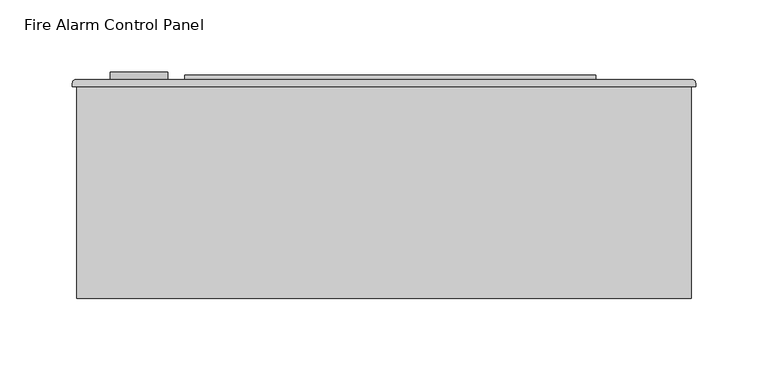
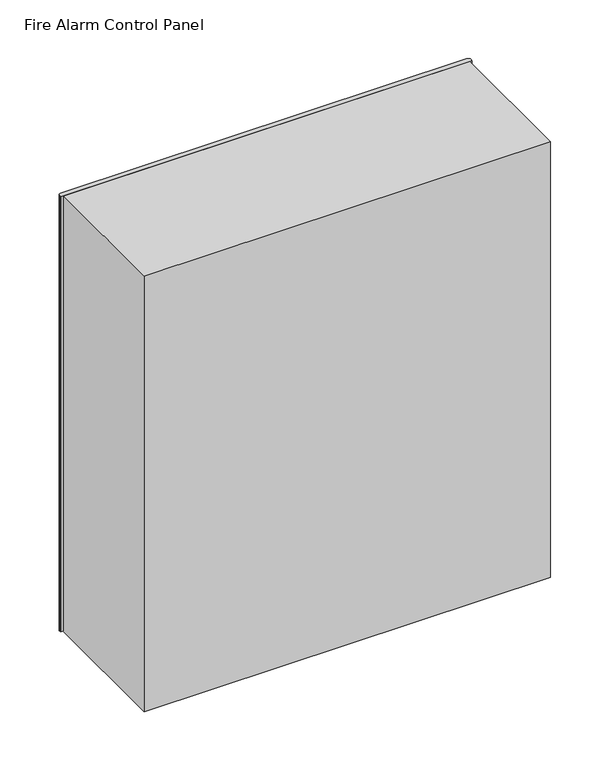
"""IFC4 building model written with IfcOpenShell, lengths in millimetres: proxy geometry, Fire_Alarm_Control_Panel_Wallmount_with_3inch_Strut_BIM_Model : Fire Alarm Control Panel."""

from ifc_helpers import new_model, si_unit, point, frame, frame_2d, origin, place, context, project, spatial, polyline, circle_curve, trimmed, segment, composite_curve, outline, extrude, source, transform, mapped, element, save


def fire_alarm_control_panel_5a65a3f3(model_context):
    return source(origin(), model_context, "Body", "SweptSolid", [
        extrude(outline(polyline([(271.8339485, 298.0), (-13.1660515, 298.0), (-13.1660515, 300.9797878), (271.8339485, 300.9797878), (271.8339485, 298.0)])), frame((0.0, 0.0, 667.186947), z_axis=(0.0, 0.0, 1.0), x_axis=(1.0, 0.0, 0.0)), (0.0, 0.0, 1.0), 157.2148213),
        extrude(outline(composite_curve([segment(trimmed(circle_curve(frame_2d((706.0, -44.7274277)), 20.0), [point((706.0, -64.7274277))], [point((706.0, -24.7274277))], False, "CARTESIAN"), True, "CONTINUOUS"), segment(trimmed(circle_curve(frame_2d((706.0, -44.7274277)), 20.0), [point((706.0, -24.7274277))], [point((706.0, -64.7274277))], False, "CARTESIAN"), True, "CONTINUOUS")], self_intersect=False), holes=[polyline([(713.2746144, -46.5031745), (713.2746144, -41.5031745), (698.2746144, -41.5031745), (698.2746144, -46.5031745), (713.2746144, -46.5031745)])]), frame((0.0, 298.0, 0.0), z_axis=(0.0, 1.0, 0.0), x_axis=(0.0, 0.0, 1.0)), (0.0, 0.0, 1.0), 5.1182851),
        extrude(outline(composite_curve([segment(trimmed(circle_curve(frame_2d((338.0, 295.0)), 3.0), [point((338.0, 298.0))], [point((341.0, 295.0))], False, "CARTESIAN"), True, "CONTINUOUS"), segment(polyline([(341.0, 295.0), (341.0, 293.1182851), (-91.0, 293.1182851), (-91.0, 295.0)]), True, "CONTINUOUS"), segment(trimmed(circle_curve(frame_2d((-88.0, 295.0)), 3.0), [point((-91.0, 295.0))], [point((-88.0, 298.0))], False, "CARTESIAN"), True, "CONTINUOUS"), segment(polyline([(-88.0, 298.0), (338.0, 298.0)]), True, "CONTINUOUS")], self_intersect=False)), frame((0.0, 0.0, 460.0), z_axis=(0.0, 0.0, 1.0), x_axis=(1.0, 0.0, 0.0)), (0.0, 0.0, 1.0), 483.0),
        extrude(outline(polyline([(338.0, 293.1182851), (338.0, 146.0), (-88.0, 146.0), (-88.0, 293.1182851), (338.0, 293.1182851)])), frame((0.0, 0.0, 460.0), z_axis=(0.0, 0.0, 1.0), x_axis=(1.0, 0.0, 0.0)), (0.0, 0.0, 1.0), 483.0),
    ])


if __name__ == "__main__":
    model = new_model("IFC4")
    model_context = context("Model", 3, world=origin())
    ifc_project = project(units=[si_unit("LENGTHUNIT", "METRE", prefix="MILLI")], contexts=[model_context])
    site = spatial("IfcSite", under=ifc_project)
    building = spatial("IfcBuilding", under=site)
    placement = place(None, origin())
    fire_alarm_control_panel_shape = fire_alarm_control_panel_5a65a3f3(model_context)
    element("IfcBuildingElementProxy", 1, Name="Fire_Alarm_Control_Panel_Wallmount_with_3inch_Strut_BIM_Model : Fire Alarm Control Panel", ObjectType="Fire_Alarm_Control_Panel_Wallmount_with_3inch_Strut_BIM_Model : Fire Alarm Control Panel", at=placement, inside=building, context=model_context, shape_type="MappedRepresentation", body=[
        mapped(fire_alarm_control_panel_shape, transform((0.0, 0.0, 0.0), x_axis=(1.0, 0.0, 0.0), y_axis=(0.0, 1.0, 0.0), z_axis=(0.0, 0.0, 1.0))),
    ])
    save(model, "model.ifc")
